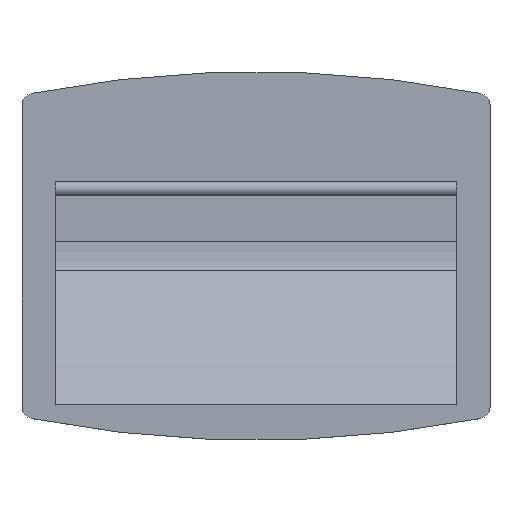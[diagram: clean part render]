
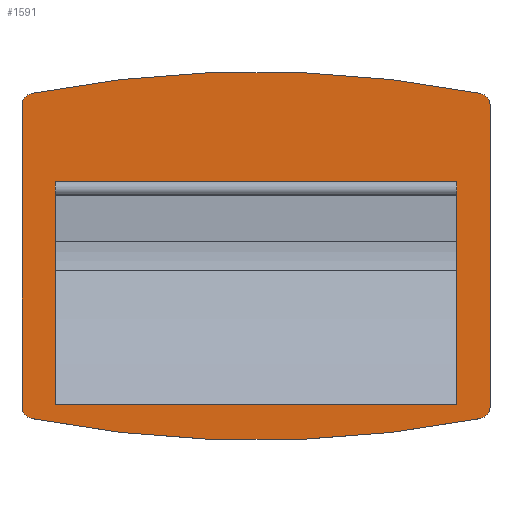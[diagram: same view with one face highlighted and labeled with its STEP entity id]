
A CAD part, top view. The second image highlights one B-rep face of the part: STEP entity #1591.
In plain terms, the highlighted planar face has unit normal (0, 0, 1).
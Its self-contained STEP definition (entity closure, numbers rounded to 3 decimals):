
#16 = VECTOR ( 'NONE', #517, 1000. ) ;
#20 = LINE ( 'NONE', #403, #1339 ) ;
#35 = VERTEX_POINT ( 'NONE', #1416 ) ;
#46 = AXIS2_PLACEMENT_3D ( 'NONE', #971, #994, #1405 ) ;
#59 = EDGE_CURVE ( 'NONE', #1116, #204, #141, .T. ) ;
#76 = VECTOR ( 'NONE', #1037, 1000. ) ;
#84 = EDGE_CURVE ( 'NONE', #197, #227, #1403, .T. ) ;
#118 = VERTEX_POINT ( 'NONE', #1764 ) ;
#124 = CARTESIAN_POINT ( 'NONE',  ( 51.5, -38.729, 3.5 ) ) ;
#139 = CARTESIAN_POINT ( 'NONE',  ( -51.5, 15.55, 3.5 ) ) ;
#141 = CIRCLE ( 'NONE', #945, 300. ) ;
#153 = ORIENTED_EDGE ( 'NONE', *, *, #1707, .T. ) ;
#168 = CIRCLE ( 'NONE', #46, 3. ) ;
#189 = DIRECTION ( 'NONE',  ( 1., 0., 0. ) ) ;
#196 = VECTOR ( 'NONE', #1842, 1000. ) ;
#197 = VERTEX_POINT ( 'NONE', #1323 ) ;
#199 = LINE ( 'NONE', #1692, #196 ) ;
#200 = VECTOR ( 'NONE', #570, 1000. ) ;
#204 = VERTEX_POINT ( 'NONE', #1188 ) ;
#227 = VERTEX_POINT ( 'NONE', #612 ) ;
#235 = EDGE_CURVE ( 'NONE', #935, #287, #1810, .T. ) ;
#245 = EDGE_CURVE ( 'NONE', #1113, #287, #747, .T. ) ;
#287 = VERTEX_POINT ( 'NONE', #1381 ) ;
#288 = DIRECTION ( 'NONE',  ( 0., -1., 0. ) ) ;
#306 = DIRECTION ( 'NONE',  ( 0., 1., 0. ) ) ;
#313 = CARTESIAN_POINT ( 'NONE',  ( -51.5, 19.032, 3.5 ) ) ;
#322 = AXIS2_PLACEMENT_3D ( 'NONE', #986, #826, #1417 ) ;
#353 = DIRECTION ( 'NONE',  ( 0., 0., 1. ) ) ;
#356 = CARTESIAN_POINT ( 'NONE',  ( 57.576, 41.673, 3.5 ) ) ;
#359 = CIRCLE ( 'NONE', #1665, 3. ) ;
#360 = DIRECTION ( 'NONE',  ( 0., 0., 1. ) ) ;
#377 = CARTESIAN_POINT ( 'NONE',  ( 51.5, 15.55, 3.5 ) ) ;
#403 = CARTESIAN_POINT ( 'NONE',  ( -51.5, 15.568, 3.5 ) ) ;
#406 = CARTESIAN_POINT ( 'NONE',  ( -60., 38.729, 3.5 ) ) ;
#413 = DIRECTION ( 'NONE',  ( 0., 0., 1. ) ) ;
#430 = LINE ( 'NONE', #1019, #1440 ) ;
#449 = VECTOR ( 'NONE', #1139, 1000. ) ;
#497 = CARTESIAN_POINT ( 'NONE',  ( 51.5, 19.032, 3.5 ) ) ;
#508 = ORIENTED_EDGE ( 'NONE', *, *, #1355, .F. ) ;
#514 = AXIS2_PLACEMENT_3D ( 'NONE', #1329, #413, #1634 ) ;
#517 = DIRECTION ( 'NONE',  ( 1., 0., 0. ) ) ;
#549 = LINE ( 'NONE', #1745, #449 ) ;
#570 = DIRECTION ( 'NONE',  ( 0., 1., 0. ) ) ;
#588 = ORIENTED_EDGE ( 'NONE', *, *, #1902, .F. ) ;
#592 = LINE ( 'NONE', #124, #200 ) ;
#604 = AXIS2_PLACEMENT_3D ( 'NONE', #1845, #1366, #1357 ) ;
#612 = CARTESIAN_POINT ( 'NONE',  ( 60., -38.729, 3.5 ) ) ;
#616 = EDGE_CURVE ( 'NONE', #935, #1655, #20, .T. ) ;
#648 = VERTEX_POINT ( 'NONE', #1106 ) ;
#654 = ORIENTED_EDGE ( 'NONE', *, *, #84, .T. ) ;
#673 = EDGE_CURVE ( 'NONE', #204, #1259, #1787, .T. ) ;
#721 = EDGE_CURVE ( 'NONE', #118, #35, #359, .T. ) ;
#728 = CARTESIAN_POINT ( 'NONE',  ( 60., -38.729, 3.5 ) ) ;
#730 = EDGE_CURVE ( 'NONE', #1141, #1007, #794, .T. ) ;
#747 = LINE ( 'NONE', #313, #1437 ) ;
#771 = VERTEX_POINT ( 'NONE', #377 ) ;
#779 = FACE_OUTER_BOUND ( 'NONE', #1315, .T. ) ;
#794 = LINE ( 'NONE', #800, #16 ) ;
#800 = CARTESIAN_POINT ( 'NONE',  ( -51.5, -38.2, 3.5 ) ) ;
#808 = ORIENTED_EDGE ( 'NONE', *, *, #245, .F. ) ;
#816 = AXIS2_PLACEMENT_3D ( 'NONE', #1690, #353, #903 ) ;
#826 = DIRECTION ( 'NONE',  ( 0., 0., 1. ) ) ;
#903 = DIRECTION ( 'NONE',  ( 1., 0., 0. ) ) ;
#904 = EDGE_CURVE ( 'NONE', #771, #1007, #549, .T. ) ;
#928 = EDGE_CURVE ( 'NONE', #227, #648, #1179, .T. ) ;
#935 = VERTEX_POINT ( 'NONE', #1626 ) ;
#945 = AXIS2_PLACEMENT_3D ( 'NONE', #1264, #1144, #1870 ) ;
#971 = CARTESIAN_POINT ( 'NONE',  ( 57., 38.729, 3.5 ) ) ;
#986 = CARTESIAN_POINT ( 'NONE',  ( 0., 252.75, 3.5 ) ) ;
#993 = DIRECTION ( 'NONE',  ( 1., 0., 0. ) ) ;
#994 = DIRECTION ( 'NONE',  ( 0., 0., 1. ) ) ;
#1007 = VERTEX_POINT ( 'NONE', #1612 ) ;
#1019 = CARTESIAN_POINT ( 'NONE',  ( -51.5, 15.55, 3.5 ) ) ;
#1031 = DIRECTION ( 'NONE',  ( 0., 1., 0. ) ) ;
#1037 = DIRECTION ( 'NONE',  ( 0., -1., 0. ) ) ;
#1050 = ORIENTED_EDGE ( 'NONE', *, *, #1075, .T. ) ;
#1060 = ORIENTED_EDGE ( 'NONE', *, *, #721, .T. ) ;
#1075 = EDGE_CURVE ( 'NONE', #1797, #771, #199, .T. ) ;
#1106 = CARTESIAN_POINT ( 'NONE',  ( 60., 38.729, 3.5 ) ) ;
#1113 = VERTEX_POINT ( 'NONE', #497 ) ;
#1116 = VERTEX_POINT ( 'NONE', #356 ) ;
#1139 = DIRECTION ( 'NONE',  ( 0., -1., 0. ) ) ;
#1141 = VERTEX_POINT ( 'NONE', #1390 ) ;
#1144 = DIRECTION ( 'NONE',  ( 0., 0., 1. ) ) ;
#1153 = LINE ( 'NONE', #1480, #76 ) ;
#1168 = CIRCLE ( 'NONE', #322, 300. ) ;
#1179 = LINE ( 'NONE', #728, #1912 ) ;
#1188 = CARTESIAN_POINT ( 'NONE',  ( -57.576, 41.673, 3.5 ) ) ;
#1228 = FACE_BOUND ( 'NONE', #1236, .T. ) ;
#1236 = EDGE_LOOP ( 'NONE', ( #808, #508, #1305, #1833 ) ) ;
#1259 = VERTEX_POINT ( 'NONE', #406 ) ;
#1264 = CARTESIAN_POINT ( 'NONE',  ( 0., -252.75, 3.5 ) ) ;
#1296 = ORIENTED_EDGE ( 'NONE', *, *, #59, .T. ) ;
#1305 = ORIENTED_EDGE ( 'NONE', *, *, #616, .F. ) ;
#1308 = EDGE_CURVE ( 'NONE', #35, #197, #1168, .T. ) ;
#1313 = ORIENTED_EDGE ( 'NONE', *, *, #1308, .T. ) ;
#1315 = EDGE_LOOP ( 'NONE', ( #1353, #1060, #1313, #654, #1552, #153, #1296, #1730 ) ) ;
#1323 = CARTESIAN_POINT ( 'NONE',  ( 57.576, -41.673, 3.5 ) ) ;
#1329 = CARTESIAN_POINT ( 'NONE',  ( 57., -38.729, 3.5 ) ) ;
#1339 = VECTOR ( 'NONE', #993, 1000. ) ;
#1353 = ORIENTED_EDGE ( 'NONE', *, *, #1817, .T. ) ;
#1355 = EDGE_CURVE ( 'NONE', #1655, #1113, #592, .T. ) ;
#1357 = DIRECTION ( 'NONE',  ( 1., 0., 0. ) ) ;
#1366 = DIRECTION ( 'NONE',  ( 0., 0., 1. ) ) ;
#1381 = CARTESIAN_POINT ( 'NONE',  ( -51.5, 19.032, 3.5 ) ) ;
#1390 = CARTESIAN_POINT ( 'NONE',  ( -51.5, -38.2, 3.5 ) ) ;
#1403 = CIRCLE ( 'NONE', #514, 3. ) ;
#1405 = DIRECTION ( 'NONE',  ( 1., 0., 0. ) ) ;
#1416 = CARTESIAN_POINT ( 'NONE',  ( -57.576, -41.673, 3.5 ) ) ;
#1417 = DIRECTION ( 'NONE',  ( 1., 0., 0. ) ) ;
#1437 = VECTOR ( 'NONE', #1673, 1000. ) ;
#1440 = VECTOR ( 'NONE', #288, 1000. ) ;
#1480 = CARTESIAN_POINT ( 'NONE',  ( -60., 38.729, 3.5 ) ) ;
#1526 = CARTESIAN_POINT ( 'NONE',  ( -57., -38.729, 3.5 ) ) ;
#1538 = ORIENTED_EDGE ( 'NONE', *, *, #904, .T. ) ;
#1543 = VECTOR ( 'NONE', #306, 1000. ) ;
#1552 = ORIENTED_EDGE ( 'NONE', *, *, #928, .T. ) ;
#1591 = ADVANCED_FACE ( 'NONE', ( #779, #1228, #1831 ), #1682, .T. ) ;
#1612 = CARTESIAN_POINT ( 'NONE',  ( 51.5, -38.2, 3.5 ) ) ;
#1626 = CARTESIAN_POINT ( 'NONE',  ( -51.5, 15.568, 3.5 ) ) ;
#1634 = DIRECTION ( 'NONE',  ( -1., 0., 0. ) ) ;
#1645 = CARTESIAN_POINT ( 'NONE',  ( -51.5, -38.729, 3.5 ) ) ;
#1655 = VERTEX_POINT ( 'NONE', #1741 ) ;
#1665 = AXIS2_PLACEMENT_3D ( 'NONE', #1526, #360, #189 ) ;
#1673 = DIRECTION ( 'NONE',  ( -1., 0., 0. ) ) ;
#1682 = PLANE ( 'NONE',  #816 ) ;
#1688 = EDGE_LOOP ( 'NONE', ( #1538, #1711, #588, #1050 ) ) ;
#1690 = CARTESIAN_POINT ( 'NONE',  ( -57., -38.729, 3.5 ) ) ;
#1692 = CARTESIAN_POINT ( 'NONE',  ( -51.5, 15.55, 3.5 ) ) ;
#1707 = EDGE_CURVE ( 'NONE', #648, #1116, #168, .T. ) ;
#1711 = ORIENTED_EDGE ( 'NONE', *, *, #730, .F. ) ;
#1730 = ORIENTED_EDGE ( 'NONE', *, *, #673, .T. ) ;
#1741 = CARTESIAN_POINT ( 'NONE',  ( 51.5, 15.568, 3.5 ) ) ;
#1745 = CARTESIAN_POINT ( 'NONE',  ( 51.5, 15.55, 3.5 ) ) ;
#1764 = CARTESIAN_POINT ( 'NONE',  ( -60., -38.729, 3.5 ) ) ;
#1787 = CIRCLE ( 'NONE', #604, 3. ) ;
#1797 = VERTEX_POINT ( 'NONE', #139 ) ;
#1810 = LINE ( 'NONE', #1645, #1543 ) ;
#1817 = EDGE_CURVE ( 'NONE', #1259, #118, #1153, .T. ) ;
#1831 = FACE_BOUND ( 'NONE', #1688, .T. ) ;
#1833 = ORIENTED_EDGE ( 'NONE', *, *, #235, .T. ) ;
#1842 = DIRECTION ( 'NONE',  ( 1., 0., 0. ) ) ;
#1845 = CARTESIAN_POINT ( 'NONE',  ( -57., 38.729, 3.5 ) ) ;
#1870 = DIRECTION ( 'NONE',  ( 1., 0., 0. ) ) ;
#1902 = EDGE_CURVE ( 'NONE', #1797, #1141, #430, .T. ) ;
#1912 = VECTOR ( 'NONE', #1031, 1000. ) ;
